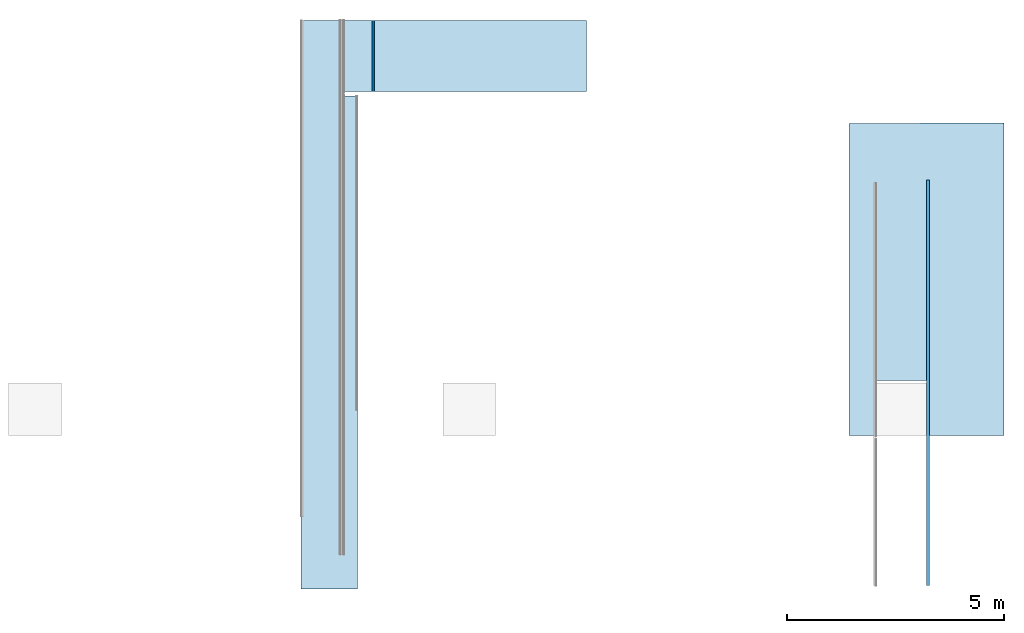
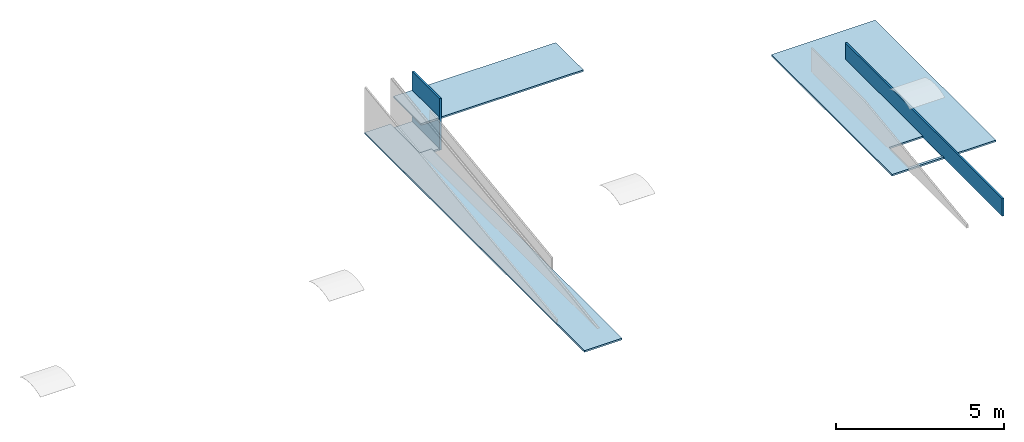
# One storey, part 1 of 4: 4 slabs, 2 walls, 1 opening.
"""IFC2X3 building model written with IfcOpenShell, lengths in metres."""

from ifc_helpers import new_model, entity, si_unit, converted_unit, derived_unit, money_unit, direction, frame, origin_with_axes, place, context, subcontext, project, spatial, polyline, outline, extrude, material, layer, layer_set, layer_usage, type_object, element, save


model = new_model("IFC2X3")

# Units and contexts
model_context = context("Model", 3, precision=1e-05, world=origin_with_axes(), true_north=direction((0.0, 1.0)))
body_context = subcontext(model_context, "Body", "Model", "MODEL_VIEW")
ifc_project = project(units=[si_unit("LENGTHUNIT", "METRE"), si_unit("AREAUNIT", "SQUARE_METRE"), si_unit("VOLUMEUNIT", "CUBIC_METRE"), converted_unit("PLANEANGLEUNIT", "DEGREE", entity("IfcPlaneAngleMeasure", 0.0174532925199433), si_unit("PLANEANGLEUNIT", "RADIAN"), dimensions=[0, 0, 0, 0, 0, 0, 0]), money_unit("CHF"), converted_unit("TIMEUNIT", "Year", entity("IfcTimeMeasure", 31557600.0), si_unit("TIMEUNIT", "SECOND"), dimensions=[0, 0, 1, 0, 0, 0, 0]), si_unit("MASSUNIT", "GRAM", prefix="KILO"), si_unit("THERMODYNAMICTEMPERATUREUNIT", "DEGREE_CELSIUS"), si_unit("LUMINOUSINTENSITYUNIT", "LUMEN"), si_unit("ENERGYUNIT", "JOULE", prefix="MEGA"), derived_unit("THERMALCONDUCTANCEUNIT", [(si_unit("POWERUNIT", "WATT"), 1), (si_unit("LENGTHUNIT", "METRE"), -1), (si_unit("THERMODYNAMICTEMPERATUREUNIT", "KELVIN"), -1)]), derived_unit("SPECIFICHEATCAPACITYUNIT", [(si_unit("ENERGYUNIT", "JOULE"), 1), (si_unit("MASSUNIT", "GRAM", prefix="KILO"), -1), (si_unit("THERMODYNAMICTEMPERATUREUNIT", "KELVIN"), -1)]), derived_unit("MASSDENSITYUNIT", [(si_unit("MASSUNIT", "GRAM", prefix="KILO"), 1), (si_unit("VOLUMEUNIT", "CUBIC_METRE"), -1)])], contexts=[model_context])

# Site, building, storey
site_placement = place(None, origin_with_axes())
site = spatial("IfcSite", under=ifc_project, at=site_placement, Name="Site", CompositionType="ELEMENT")
building_placement = place(site_placement, origin_with_axes())
building = spatial("IfcBuilding", under=site, at=building_placement, Name="Bâtiment", CompositionType="ELEMENT")
storey_placement = place(building_placement, frame((0.0, 0.0, 4.85), z_axis=(0.0, 0.0, 1.0), x_axis=(1.0, 0.0, 0.0)))
storey = spatial("IfcBuildingStorey", under=building, at=storey_placement, Name="1er étage", CompositionType="ELEMENT", Elevation=4.85)

# Slabs
ifc_material_1 = material(Name="Cloison - Rail 48")
ifc_layer_1 = layer(ifc_material_1, 0.048, ventilated="UNKNOWN")
ifc_material_2 = material(Name="Finition int - Plaque de plâtre")
ifc_layer_2 = layer(ifc_material_2, 0.0125, ventilated="UNKNOWN")
ifc_layer_set_1 = layer_set([ifc_layer_1, ifc_layer_2], Name="AL - Encoffrement: structure + 1x1 face")
ifc_layer_usage_1 = layer_usage(ifc_layer_set_1, "AXIS3", "NEGATIVE", 0.0605)
slab_type_1 = type_object("IfcSlabType", Name="AL - Encoffrement: structure + 1x1 face 61", PredefinedType="FLOOR")
slab_1_placement = place(storey_placement, frame((26.90543336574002, 22.45471930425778, -2.089499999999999), z_axis=(0.0, 0.0, 1.0), x_axis=(1.0, 0.0, 0.0)))
element("IfcSlab", 1, at=slab_1_placement, inside=storey, type_object=slab_type_1, material=ifc_layer_usage_1, Name="DALLE-005", PredefinedType="FLOOR", context=body_context, shape_type="SweptSolid", body=[
    extrude(outline(polyline([(0.0, 0.0), (0.7012980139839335, 0.0), (0.7012980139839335, 1.642010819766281), (0.0, 1.642010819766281), (0.0, 0.0)])), frame((0.0, 0.0, -0.0605), z_axis=(0.0, 0.0, 1.0), x_axis=(1.0, 0.0, 0.0)), (0.0, 0.0, 1.0), 0.0605),
])
ifc_layer_usage_2 = layer_usage(ifc_layer_set_1, "AXIS3", "NEGATIVE", 0.0605)
slab_2_placement = place(storey_placement, frame((25.91217371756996, 10.98682041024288, -1.919500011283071), z_axis=(0.0, 0.0, 1.0), x_axis=(1.0, 0.0, 0.0)))
element("IfcSlab", 2, at=slab_2_placement, inside=storey, type_object=slab_type_1, material=ifc_layer_usage_2, Name="DALLE-005", PredefinedType="FLOOR", context=body_context, shape_type="SweptSolid", body=[
    extrude(outline(polyline([(0.0, 0.0), (1.298423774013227, 0.0), (1.298423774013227, 11.36969284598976), (0.8942596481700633, 11.3688988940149), (0.8879745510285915, 13.10988702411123), (-5.220739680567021e-06, 13.10990971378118), (0.0, 0.0)])), frame((0.0, 0.0, -0.0605), z_axis=(0.0, 0.0, 1.0), x_axis=(1.0, 0.0, 0.0)), (0.0, 0.0, 1.0), 0.0605),
])

# Slab, opening
ifc_material_3 = material(Name="Finition int - Faux-plafond")
ifc_layer_3 = layer(ifc_material_3, 0.0605, ventilated="UNKNOWN")
ifc_layer_set_2 = layer_set([ifc_layer_3], Name="Finition int - Faux-plafond 0.0605")
ifc_layer_usage_3 = layer_usage(ifc_layer_set_2, "AXIS3", "NEGATIVE", 0.0605)
slab_type_2 = type_object("IfcSlabType", Name="Finition int - Faux-plafond 61", PredefinedType="FLOOR")
slab_3_placement = place(storey_placement, frame((38.55106127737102, 14.52181449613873, -2.069499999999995), z_axis=(0.0, 0.0, 1.0), x_axis=(1.0, 0.0, 0.0)))
slab_3 = element("IfcSlab", 3, at=slab_3_placement, inside=storey, type_object=slab_type_2, material=ifc_layer_usage_3, Name="DALLE-005", PredefinedType="FLOOR", context=body_context, shape_type="SweptSolid", body=[
    extrude(outline(polyline([(0.0, 0.0), (3.577444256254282, 0.0), (3.577444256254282, 7.212035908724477), (0.0, 7.200419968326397), (0.0, 0.0)])), frame((0.0, 0.0, -0.0605), z_axis=(0.0, 0.0, 1.0), x_axis=(1.0, 0.0, 0.0)), (0.0, 0.0, 1.0), 0.0605),
])
opening_placement = place(slab_3_placement, frame((-38.55106127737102, -14.52181449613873, -2.780500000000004), z_axis=(0.0, 0.0, 1.0), x_axis=(1.0, 0.0, 0.0)))
element("IfcOpeningElement", 4, at=opening_placement, cuts=slab_3, Name="PERCEMENT-009", ObjectType="EMPTY_OPENING", context=body_context, shape_type="SweptSolid", body=[
    extrude(outline(polyline([(-0.5817745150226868, 0.589367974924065), (-0.5817745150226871, -0.589367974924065), (0.5817745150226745, -0.5893679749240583), (0.5817745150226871, 0.5893679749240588), (-0.5817745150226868, 0.589367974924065)])), frame((39.76340347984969, 15.20129316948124, 3.726416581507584), z_axis=(0.0, 0.0, 1.0), x_axis=(1.0, 0.0, 0.0)), (0.0, 0.0, -1.0), 1.06691658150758),
])

# Slab
ifc_layer_usage_4 = layer_usage(ifc_layer_set_2, "AXIS3", "NEGATIVE", 0.0605)
slab_4_placement = place(storey_placement, frame((26.90543336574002, 22.45471930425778, -0.9517849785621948), z_axis=(0.0, 0.0, 1.0), x_axis=(1.0, 0.0, 0.0)))
element("IfcSlab", 5, at=slab_4_placement, inside=storey, type_object=slab_type_2, material=ifc_layer_usage_4, Name="DALLE-005", PredefinedType="FLOOR", context=body_context, shape_type="SweptSolid", body=[
    extrude(outline(polyline([(0.0, 0.0), (5.593500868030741, 0.0), (5.593500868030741, 1.642010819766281), (0.0, 1.642010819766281), (0.0, 0.0)])), frame((0.0, 0.0, -0.0605), z_axis=(0.0, 0.0, 1.0), x_axis=(1.0, 0.0, 0.0)), (0.0, 0.0, 1.0), 0.0605),
])

# Walls
ifc_layer_usage_5 = layer_usage(ifc_layer_set_1, "AXIS2", "NEGATIVE", 0.0)
wall_type = type_object("IfcWallType", Name="AL - Encoffrement: structure + 1x1 face 61", PredefinedType="ELEMENTEDWALL")
wall_1_placement = place(storey_placement, frame((40.40567799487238, 20.42218591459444, -2.117499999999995), z_axis=(0.0, 0.0, 1.0), x_axis=(0.0, -1.0, 0.0)))
element("IfcWallStandardCase", 6, at=wall_1_placement, inside=storey, type_object=wall_type, material=ifc_layer_usage_5, Name="MUR_EXT-018", ObjectType="ELEMENTEDWALL", context=body_context, shape_type="SweptSolid", body=[
    extrude(outline(polyline([(0.0, -0.06049999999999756), (9.365365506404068, -0.06049999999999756), (9.365365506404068, 0.0), (0.0, 0.0), (0.0, -0.06049999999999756)])), origin_with_axes(), (0.0, 0.0, 1.0), 0.6354295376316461),
])
ifc_layer_usage_6 = layer_usage(ifc_layer_set_1, "AXIS2", "NEGATIVE", 0.0)
wall_2_placement = place(storey_placement, frame((27.60673137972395, 24.09673012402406, -2.149999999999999), z_axis=(0.0, 0.0, 1.0), x_axis=(0.0, -1.0, 0.0)))
element("IfcWallStandardCase", 7, at=wall_2_placement, inside=storey, type_object=wall_type, material=ifc_layer_usage_6, Name="MUR_EXT-018", ObjectType="ELEMENTEDWALL", context=body_context, shape_type="SweptSolid", body=[
    extrude(outline(polyline([(0.0, -0.06050000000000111), (1.642010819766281, -0.06050000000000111), (1.642010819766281, 0.0), (0.0, 0.0), (0.0, -0.06050000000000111)])), origin_with_axes(), (0.0, 0.0, 1.0), 1.883257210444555),
])

save(model, "model.ifc")
